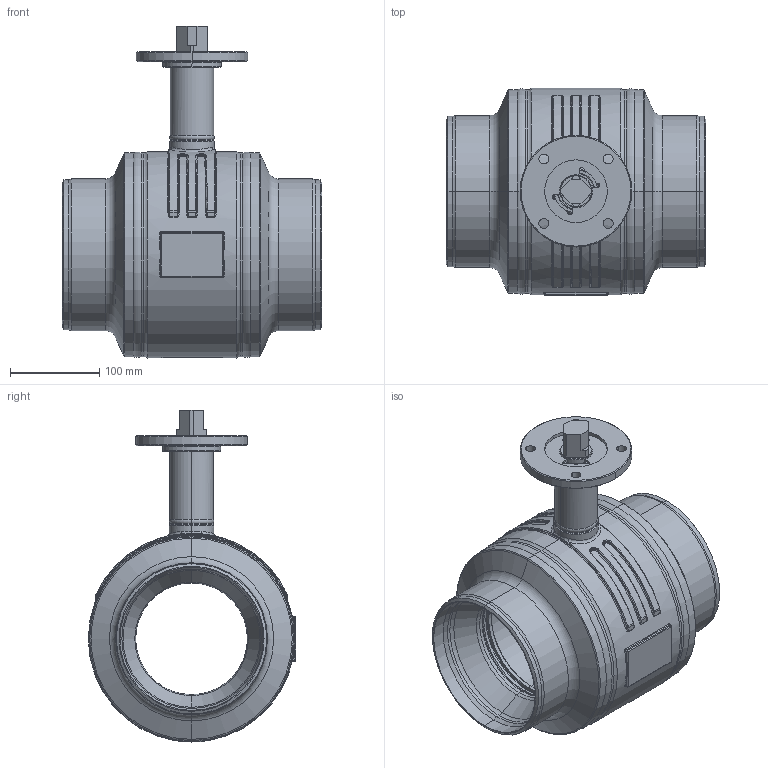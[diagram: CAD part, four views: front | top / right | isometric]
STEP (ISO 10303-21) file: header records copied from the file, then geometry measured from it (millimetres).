
FILE_DESCRIPTION((''),'2;1');
FILE_NAME('KHMO-S-R-H-150R125P04_SW0001','2025-04-22T14:44:14',('jeitlers'),('KLINGER'),'CREO PARAMETRIC BY PTC INC, 2023014','CREO PARAMETRIC BY PTC INC, 2023014','');
FILE_SCHEMA(('CONFIG_CONTROL_DESIGN'));
Length unit declared in the file: millimetre
Products named in the file (1): KHMO-S-R-H-150R125P04_SW0001
Bounding box: 290 x 232 x 371.5 mm (x, y, z)
Volume: 3442108.5 mm3; surface area: 838820.3 mm2
Topology: 2 solids, 2 shells, 559 faces, 1321 edges, 776 vertices
Faces by surface type: cylinder 190, torus 120, plane 107, cone 82, bspline 52, sphere 8
Entity records: 28681 total; most frequent: CARTESIAN_POINT 15752, DIRECTION 2899, ORIENTED_EDGE 2626, EDGE_CURVE 1313, AXIS2_PLACEMENT_3D 1231, VERTEX_POINT 776, CIRCLE 724, EDGE_LOOP 605
